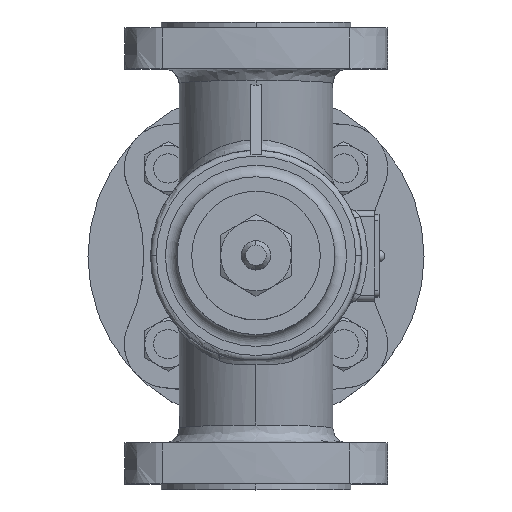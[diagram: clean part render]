
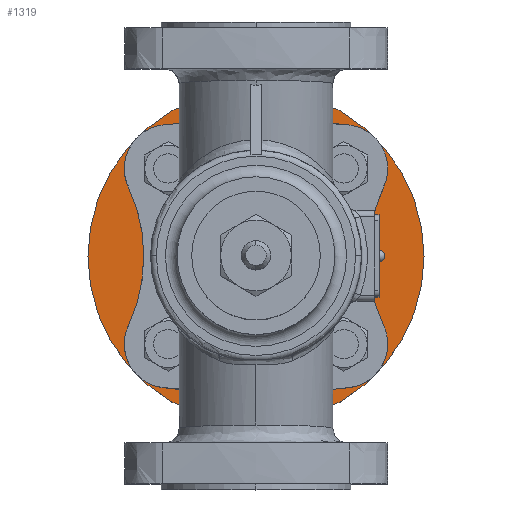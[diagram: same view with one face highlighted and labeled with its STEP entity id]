
A CAD part, top view. The second image highlights one B-rep face of the part: STEP entity #1319.
In plain terms, the highlighted planar face has unit normal (0, 0, 1).
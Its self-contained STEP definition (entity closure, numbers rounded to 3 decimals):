
#1319=ADVANCED_FACE('',(#1723,#1724,#1725,#1726,#1727,#1728),#1532,.T.);
#1532=PLANE('',#5319);
#1723=FACE_BOUND('',#1952,.T.);
#1724=FACE_BOUND('',#1953,.T.);
#1725=FACE_BOUND('',#1954,.T.);
#1726=FACE_BOUND('',#1955,.T.);
#1727=FACE_BOUND('',#1956,.T.);
#1728=FACE_BOUND('',#1957,.T.);
#1952=EDGE_LOOP('',(#2939,#2940));
#1953=EDGE_LOOP('',(#2941,#2942));
#1954=EDGE_LOOP('',(#2943,#2944));
#1955=EDGE_LOOP('',(#2945,#2946));
#1956=EDGE_LOOP('',(#2947,#2948));
#1957=EDGE_LOOP('',(#2949,#2950));
#2939=ORIENTED_EDGE('',*,*,#4251,.F.);
#2940=ORIENTED_EDGE('',*,*,#4248,.F.);
#2941=ORIENTED_EDGE('',*,*,#4257,.T.);
#2942=ORIENTED_EDGE('',*,*,#4254,.T.);
#2943=ORIENTED_EDGE('',*,*,#4441,.F.);
#2944=ORIENTED_EDGE('',*,*,#4440,.F.);
#2945=ORIENTED_EDGE('',*,*,#4443,.T.);
#2946=ORIENTED_EDGE('',*,*,#4435,.T.);
#2947=ORIENTED_EDGE('',*,*,#4325,.T.);
#2948=ORIENTED_EDGE('',*,*,#4322,.T.);
#2949=ORIENTED_EDGE('',*,*,#4512,.F.);
#2950=ORIENTED_EDGE('',*,*,#4513,.F.);
#3721=VERTEX_POINT('',#9654);
#3722=VERTEX_POINT('',#9656);
#3725=VERTEX_POINT('',#9666);
#3726=VERTEX_POINT('',#9668);
#3771=VERTEX_POINT('',#9869);
#3772=VERTEX_POINT('',#9871);
#3842=VERTEX_POINT('',#10197);
#3843=VERTEX_POINT('',#10199);
#3845=VERTEX_POINT('',#10205);
#3846=VERTEX_POINT('',#10207);
#3891=VERTEX_POINT('',#10421);
#3892=VERTEX_POINT('',#10422);
#4248=EDGE_CURVE('',#3721,#3722,#4866,.T.);
#4251=EDGE_CURVE('',#3722,#3721,#4868,.T.);
#4254=EDGE_CURVE('',#3726,#3725,#4870,.T.);
#4257=EDGE_CURVE('',#3725,#3726,#4872,.T.);
#4322=EDGE_CURVE('',#3772,#3771,#4884,.T.);
#4325=EDGE_CURVE('',#3771,#3772,#4886,.T.);
#4435=EDGE_CURVE('',#3843,#3842,#4907,.T.);
#4440=EDGE_CURVE('',#3846,#3845,#4909,.T.);
#4441=EDGE_CURVE('',#3845,#3846,#4910,.T.);
#4443=EDGE_CURVE('',#3842,#3843,#4912,.T.);
#4512=EDGE_CURVE('',#3891,#3892,#4925,.T.);
#4513=EDGE_CURVE('',#3892,#3891,#4926,.T.);
#4866=CIRCLE('',#5150,5.);
#4868=CIRCLE('',#5153,5.);
#4870=CIRCLE('',#5156,5.);
#4872=CIRCLE('',#5159,5.);
#4884=CIRCLE('',#5195,5.);
#4886=CIRCLE('',#5198,5.);
#4907=CIRCLE('',#5266,57.5);
#4909=CIRCLE('',#5269,32.5);
#4910=CIRCLE('',#5271,32.5);
#4912=CIRCLE('',#5274,57.5);
#4925=CIRCLE('',#5317,5.);
#4926=CIRCLE('',#5318,5.);
#5150=AXIS2_PLACEMENT_3D('',#9655,#5783,#5784);
#5153=AXIS2_PLACEMENT_3D('',#9660,#5790,#5791);
#5156=AXIS2_PLACEMENT_3D('',#9667,#5797,#5798);
#5159=AXIS2_PLACEMENT_3D('',#9672,#5804,#5805);
#5195=AXIS2_PLACEMENT_3D('',#9870,#5897,#5898);
#5198=AXIS2_PLACEMENT_3D('',#9875,#5904,#5905);
#5266=AXIS2_PLACEMENT_3D('',#10198,#6081,#6082);
#5269=AXIS2_PLACEMENT_3D('',#10208,#6090,#6091);
#5271=AXIS2_PLACEMENT_3D('',#10210,#6094,#6095);
#5274=AXIS2_PLACEMENT_3D('',#10213,#6100,#6101);
#5317=AXIS2_PLACEMENT_3D('',#10420,#6210,#6211);
#5318=AXIS2_PLACEMENT_3D('',#10423,#6212,#6213);
#5319=AXIS2_PLACEMENT_3D('',#10424,#6214,#6215);
#5783=DIRECTION('',(0.,0.,1.));
#5784=DIRECTION('',(0.,-1.,0.));
#5790=DIRECTION('',(0.,0.,1.));
#5791=DIRECTION('',(0.,-1.,0.));
#5797=DIRECTION('',(0.,0.,-1.));
#5798=DIRECTION('',(0.,1.,0.));
#5804=DIRECTION('',(0.,0.,-1.));
#5805=DIRECTION('',(0.,1.,0.));
#5897=DIRECTION('',(0.,0.,-1.));
#5898=DIRECTION('',(0.,-1.,0.));
#5904=DIRECTION('',(0.,0.,-1.));
#5905=DIRECTION('',(0.,-1.,0.));
#6081=DIRECTION('',(0.,0.,1.));
#6082=DIRECTION('',(0.,1.,0.));
#6090=DIRECTION('',(0.,0.,1.));
#6091=DIRECTION('',(0.,1.,0.));
#6094=DIRECTION('',(0.,0.,1.));
#6095=DIRECTION('',(0.,1.,0.));
#6100=DIRECTION('',(0.,0.,1.));
#6101=DIRECTION('',(0.,1.,0.));
#6210=DIRECTION('',(0.,0.,1.));
#6211=DIRECTION('',(0.,1.,0.));
#6212=DIRECTION('',(0.,0.,1.));
#6213=DIRECTION('',(0.,1.,0.));
#6214=DIRECTION('',(0.,0.,1.));
#6215=DIRECTION('',(0.,-1.,0.));
#9654=CARTESIAN_POINT('',(30.052,184.438,-82.993));
#9655=CARTESIAN_POINT('',(30.052,189.438,-82.993));
#9656=CARTESIAN_POINT('',(30.052,194.438,-82.993));
#9660=CARTESIAN_POINT('',(30.052,189.438,-82.993));
#9666=CARTESIAN_POINT('',(30.052,134.334,-82.993));
#9667=CARTESIAN_POINT('',(30.052,129.334,-82.993));
#9668=CARTESIAN_POINT('',(30.052,124.334,-82.993));
#9672=CARTESIAN_POINT('',(30.052,129.334,-82.993));
#9869=CARTESIAN_POINT('',(-30.052,184.438,-82.993));
#9870=CARTESIAN_POINT('',(-30.052,189.438,-82.993));
#9871=CARTESIAN_POINT('',(-30.052,194.438,-82.993));
#9875=CARTESIAN_POINT('',(-30.052,189.438,-82.993));
#10197=CARTESIAN_POINT('',(0.,216.886,-82.993));
#10198=CARTESIAN_POINT('',(0.,159.386,-82.993));
#10199=CARTESIAN_POINT('',(0.,101.886,-82.993));
#10205=CARTESIAN_POINT('',(0.,191.886,-82.993));
#10207=CARTESIAN_POINT('',(0.,126.886,-82.993));
#10208=CARTESIAN_POINT('',(0.,159.386,-82.993));
#10210=CARTESIAN_POINT('',(0.,159.386,-82.993));
#10213=CARTESIAN_POINT('',(0.,159.386,-82.993));
#10420=CARTESIAN_POINT('',(-30.052,129.334,-82.993));
#10421=CARTESIAN_POINT('',(-30.052,124.334,-82.993));
#10422=CARTESIAN_POINT('',(-30.052,134.334,-82.993));
#10423=CARTESIAN_POINT('',(-30.052,129.334,-82.993));
#10424=CARTESIAN_POINT('',(0.,159.386,-82.993));
